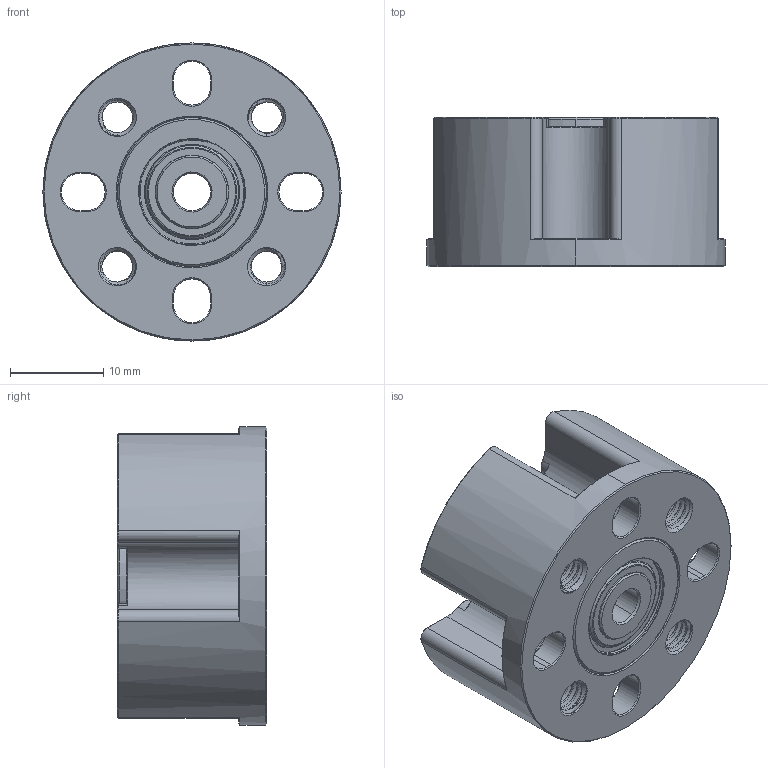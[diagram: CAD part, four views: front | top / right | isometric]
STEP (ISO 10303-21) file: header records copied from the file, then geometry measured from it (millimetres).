
FILE_DESCRIPTION (( 'STEP AP203' ), '1' );
FILE_NAME ('1614-0016-0004.STEP', '2022-05-19T18:31:07', ( '' ), ( '' ), 'SwSTEP 2.0', 'SolidWorks 2016', '' );
FILE_SCHEMA (( 'CONFIG_CONTROL_DESIGN' ));
Length unit declared in the file: millimetre
Products named in the file (3): 1614-0016-0004; 1614-0016-0000; 1601-0014-0004
Assembly tree (3 placements, depth 2):
  1614-0016-0004
    1614-0016-0000
    1601-0014-0004  x2
Bounding box: 31.95 x 16 x 31.95 mm (x, y, z)
Volume: 8012.7 mm3; surface area: 6872 mm2
Topology: 7 solids, 7 shells, 744 faces, 1946 edges, 1243 vertices
Faces by surface type: cylinder 465, cone 142, plane 89, torus 40, bspline 8
Entity records: 33202 total; most frequent: CARTESIAN_POINT 18414, ORIENTED_EDGE 3544, DIRECTION 2641, EDGE_CURVE 1772, VERTEX_POINT 1139, AXIS2_PLACEMENT_3D 998, EDGE_LOOP 689, ADVANCED_FACE 655
